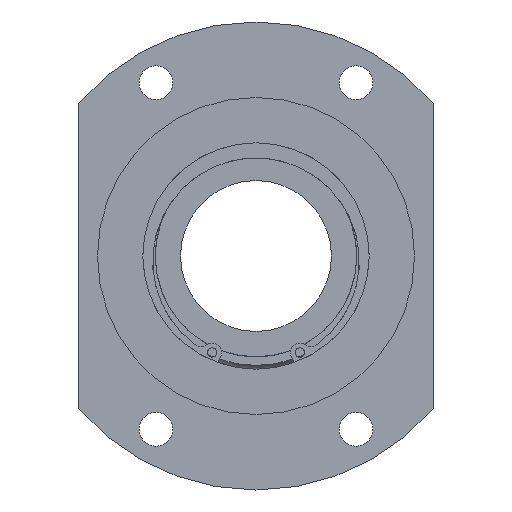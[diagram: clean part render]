
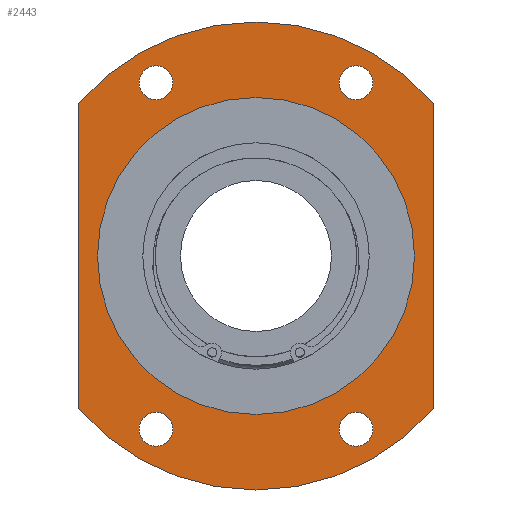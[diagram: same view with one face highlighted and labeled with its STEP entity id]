
A CAD part, left-side view. The second image highlights one B-rep face of the part: STEP entity #2443.
In plain terms, the highlighted planar face has unit normal (-1, 0, 0).
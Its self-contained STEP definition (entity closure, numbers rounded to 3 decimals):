
#2203=CARTESIAN_POINT('',(14.,31.,-45.899));
#2204=VERTEX_POINT('',#2203);
#2205=CARTESIAN_POINT('',(14.,26.5,-45.899));
#2206=DIRECTION('',(1.0,0.0,0.0));
#2207=DIRECTION('',(0.0,1.0,0.0));
#2208=AXIS2_PLACEMENT_3D('',#2205,#2206,#2207);
#2209=CIRCLE('',#2208,4.5);
#2210=EDGE_CURVE('',#2204,#2204,#2209,.T.);
#2231=CARTESIAN_POINT('',(14.,-22.,45.899));
#2232=VERTEX_POINT('',#2231);
#2233=CARTESIAN_POINT('',(14.,-26.5,45.899));
#2234=DIRECTION('',(1.0,0.0,0.0));
#2235=DIRECTION('',(0.0,1.0,0.0));
#2236=AXIS2_PLACEMENT_3D('',#2233,#2234,#2235);
#2237=CIRCLE('',#2236,4.5);
#2238=EDGE_CURVE('',#2232,#2232,#2237,.T.);
#2259=CARTESIAN_POINT('',(14.,31.,45.899));
#2260=VERTEX_POINT('',#2259);
#2261=CARTESIAN_POINT('',(14.,26.5,45.899));
#2262=DIRECTION('',(1.0,0.0,0.0));
#2263=DIRECTION('',(0.0,1.0,0.0));
#2264=AXIS2_PLACEMENT_3D('',#2261,#2262,#2263);
#2265=CIRCLE('',#2264,4.5);
#2266=EDGE_CURVE('',#2260,#2260,#2265,.T.);
#2287=CARTESIAN_POINT('',(14.,-22.,-45.899));
#2288=VERTEX_POINT('',#2287);
#2289=CARTESIAN_POINT('',(14.,-26.5,-45.899));
#2290=DIRECTION('',(1.0,0.0,0.0));
#2291=DIRECTION('',(0.0,1.0,0.0));
#2292=AXIS2_PLACEMENT_3D('',#2289,#2290,#2291);
#2293=CIRCLE('',#2292,4.5);
#2294=EDGE_CURVE('',#2288,#2288,#2293,.T.);
#2314=CARTESIAN_POINT('',(14.,47.,-40.435));
#2315=VERTEX_POINT('',#2314);
#2322=CARTESIAN_POINT('',(14.,47.,40.435));
#2323=VERTEX_POINT('',#2322);
#2324=CARTESIAN_POINT('',(14.,47.,40.435));
#2325=DIRECTION('',(0.0,0.0,-1.0));
#2326=VECTOR('',#2325,80.87);
#2327=LINE('',#2324,#2326);
#2328=EDGE_CURVE('',#2323,#2315,#2327,.T.);
#2354=CARTESIAN_POINT('',(14.,-47.,40.435));
#2355=VERTEX_POINT('',#2354);
#2362=CARTESIAN_POINT('',(14.,-47.,-40.435));
#2363=VERTEX_POINT('',#2362);
#2364=CARTESIAN_POINT('',(14.,-47.,-40.435));
#2365=DIRECTION('',(0.0,0.0,1.0));
#2366=VECTOR('',#2365,80.87);
#2367=LINE('',#2364,#2366);
#2368=EDGE_CURVE('',#2363,#2355,#2367,.T.);
#2393=CARTESIAN_POINT('',(14.,0.0,0.0));
#2394=DIRECTION('',(-1.0,0.0,0.0));
#2395=DIRECTION('',(0.0,0.0,1.0));
#2396=AXIS2_PLACEMENT_3D('',#2393,#2394,#2395);
#2397=CIRCLE('',#2396,62.0);
#2398=EDGE_CURVE('',#2315,#2363,#2397,.T.);
#2403=CARTESIAN_POINT('',(14.,0.0,52.0));
#2404=DIRECTION('',(-1.0,0.0,0.0));
#2405=DIRECTION('',(0.0,0.0,1.0));
#2406=AXIS2_PLACEMENT_3D('',#2403,#2404,#2405);
#2407=PLANE('',#2406);
#2408=ORIENTED_EDGE('',*,*,#2328,.T.);
#2409=ORIENTED_EDGE('',*,*,#2398,.T.);
#2410=ORIENTED_EDGE('',*,*,#2368,.T.);
#2411=CARTESIAN_POINT('',(14.,0.0,0.0));
#2412=DIRECTION('',(-1.0,0.0,0.0));
#2413=DIRECTION('',(0.0,0.0,1.0));
#2414=AXIS2_PLACEMENT_3D('',#2411,#2412,#2413);
#2415=CIRCLE('',#2414,62.0);
#2416=EDGE_CURVE('',#2355,#2323,#2415,.T.);
#2417=ORIENTED_EDGE('',*,*,#2416,.T.);
#2418=EDGE_LOOP('',(#2408,#2409,#2410,#2417));
#2419=FACE_OUTER_BOUND('',#2418,.T.);
#2420=ORIENTED_EDGE('',*,*,#2210,.T.);
#2421=EDGE_LOOP('',(#2420));
#2422=FACE_BOUND('',#2421,.T.);
#2423=ORIENTED_EDGE('',*,*,#2238,.T.);
#2424=EDGE_LOOP('',(#2423));
#2425=FACE_BOUND('',#2424,.T.);
#2426=ORIENTED_EDGE('',*,*,#2266,.T.);
#2427=EDGE_LOOP('',(#2426));
#2428=FACE_BOUND('',#2427,.T.);
#2429=ORIENTED_EDGE('',*,*,#2294,.T.);
#2430=EDGE_LOOP('',(#2429));
#2431=FACE_BOUND('',#2430,.T.);
#2432=CARTESIAN_POINT('',(14.,0.0,42.0));
#2433=VERTEX_POINT('',#2432);
#2434=CARTESIAN_POINT('',(14.,0.0,0.0));
#2435=DIRECTION('',(-1.0,0.0,0.0));
#2436=DIRECTION('',(0.0,0.0,1.0));
#2437=AXIS2_PLACEMENT_3D('',#2434,#2435,#2436);
#2438=CIRCLE('',#2437,42.0);
#2439=EDGE_CURVE('',#2433,#2433,#2438,.T.);
#2440=ORIENTED_EDGE('',*,*,#2439,.F.);
#2441=EDGE_LOOP('',(#2440));
#2442=FACE_BOUND('',#2441,.T.);
#2443=ADVANCED_FACE('',(#2419,#2422,#2425,#2428,#2431,#2442),#2407,.T.);
